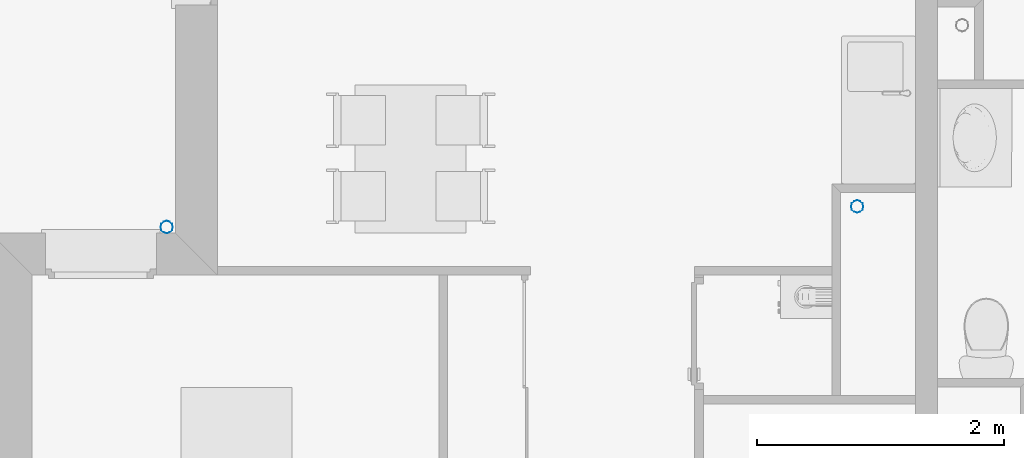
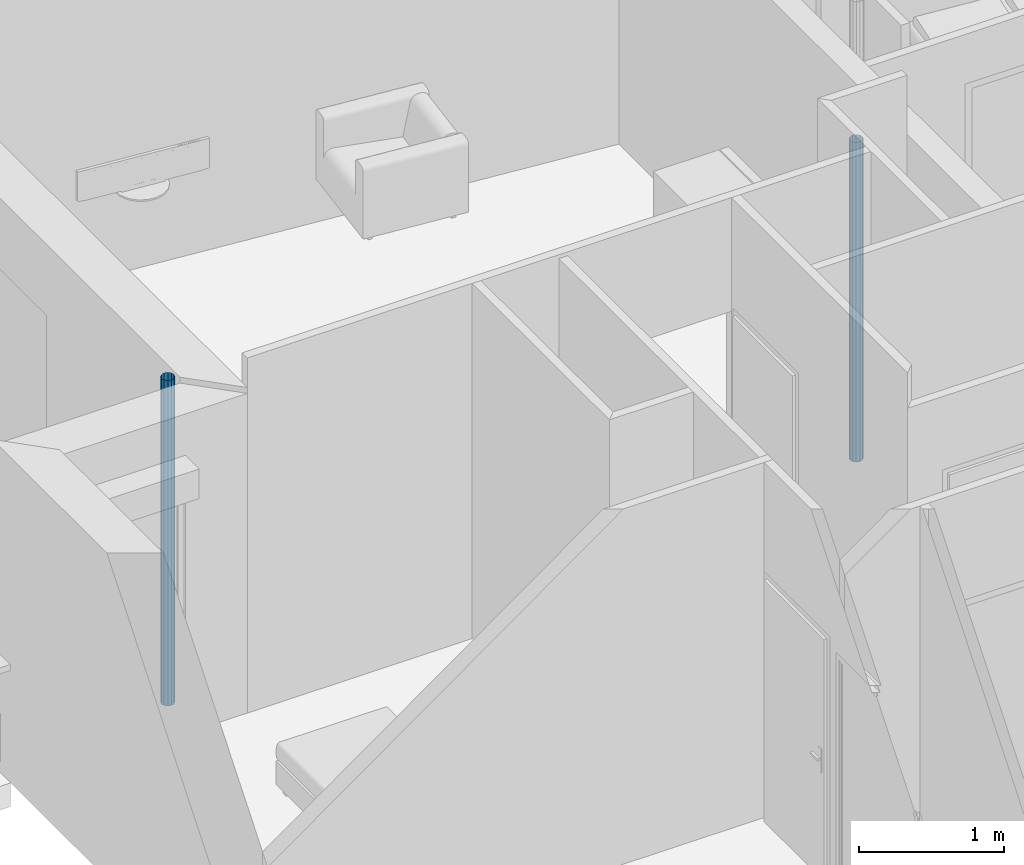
# One storey, part 79 of 164: 2 discrete accessories.
"""IFC2X3 building model written with IfcOpenShell, lengths in millimetres."""

import ifcopenshell
import ifcopenshell.guid

model = None  # the IFC model being written
_history = None  # IfcOwnerHistory: only IFC2X3 demands one
_inside = {}  # id of a spatial element -> (the spatial element, [elements in it])
_under = {}  # id of a project, library or spatial element -> (it, [spatial elements below it])
_declared = {}  # id of a project -> (the project, [libraries it declares])
_typed = {}  # id of a type object -> (the type object, [elements of that type])
_made_of = {}  # id of a material, layer set ... -> (it, [elements and type objects made of it])


def new_model(schema):
    """Start an empty IFC model of exactly this schema.

    Asked for "IFC4X3", IfcOpenShell would pick the latest addendum, in which some entities
    have other attributes; the version numbers below select the first issue.
    IFC2X3 requires an IfcOwnerHistory on every rooted entity: one is made here for all.
    """
    global model, _history
    if schema == "IFC4X3":
        model = ifcopenshell.file(schema_version=(4, 3, 0, 0))
    else:
        model = ifcopenshell.file(schema=schema)
    _inside.clear()
    _under.clear()
    _declared.clear()
    _typed.clear()
    _made_of.clear()
    _history = None
    if model.schema == "IFC2X3":
        org = make("IfcOrganization", Name="unknown")
        user = make(
            "IfcPersonAndOrganization",
            ThePerson=make("IfcPerson", FamilyName="unknown"),
            TheOrganization=org,
        )
        app = make(
            "IfcApplication",
            ApplicationDeveloper=org,
            Version="unknown",
            ApplicationFullName="unknown",
            ApplicationIdentifier="unknown",
        )
        _history = make(
            "IfcOwnerHistory",
            OwningUser=user,
            OwningApplication=app,
            ChangeAction="ADDED",
            CreationDate=0,
        )
    return model


def make(cls, **values):
    """One entity of the class cls with the attributes given. An attribute that is None is left unset."""
    return model.create_entity(
        cls, **{name: value for name, value in values.items() if value is not None}
    )


def entity(cls, *values):
    """Any entity or typed value of the class cls, its attributes in the order of the schema. None: left unset."""
    e = model.create_entity(cls)
    for i, value in enumerate(values):
        if value is not None:
            e[i] = value
    return e


def rooted(cls, **values):
    """An entity with a GlobalId (a new one), such as an element, a storey or a relation."""
    return make(cls, GlobalId=ifcopenshell.guid.new(), OwnerHistory=_history, **values)


def si_unit(unit_type, name, prefix=None):
    """IfcSIUnit, for example si_unit("LENGTHUNIT", "METRE", prefix="MILLI")."""
    return make("IfcSIUnit", UnitType=unit_type, Prefix=prefix, Name=name)


def converted_unit(unit_type, name, factor, base, dimensions=None, offset=None):
    """IfcConversionBasedUnit, such as the inch: factor (a typed value) times the base unit."""
    return make(
        "IfcConversionBasedUnit"
        if offset is None
        else "IfcConversionBasedUnitWithOffset",
        ConversionOffset=offset,
        Dimensions=None
        if dimensions is None
        else entity("IfcDimensionalExponents", *dimensions),
        UnitType=unit_type,
        Name=name,
        ConversionFactor=make(
            "IfcMeasureWithUnit", ValueComponent=factor, UnitComponent=base
        ),
    )


def derived_unit(unit_type, elements):
    """IfcDerivedUnit: a product of units, each with its exponent."""
    return make(
        "IfcDerivedUnit",
        Elements=[
            make("IfcDerivedUnitElement", Unit=unit, Exponent=power)
            for unit, power in elements
        ],
        UnitType=unit_type,
    )


def money_unit(currency):
    """IfcMonetaryUnit."""
    return make("IfcMonetaryUnit", Currency=currency)


def assignment(units):
    """IfcUnitAssignment: the units of a project."""
    return None if units is None else make("IfcUnitAssignment", Units=units)


def point(xyz):
    """IfcCartesianPoint."""
    return None if xyz is None else make("IfcCartesianPoint", Coordinates=xyz)


def direction(xyz):
    """IfcDirection."""
    return None if xyz is None else make("IfcDirection", DirectionRatios=xyz)


def frame(location, z_axis=None, x_axis=None):
    """IfcAxis2Placement3D, a coordinate frame: its origin and axes. An axis left out is left unset."""
    return make(
        "IfcAxis2Placement3D",
        Location=point(location),
        Axis=direction(z_axis),
        RefDirection=direction(x_axis),
    )


def origin_with_axes():
    """The frame at (0, 0, 0) with the z axis (0, 0, 1) and the x axis (1, 0, 0) written out."""
    return frame((0.0, 0.0, 0.0), z_axis=(0.0, 0.0, 1.0), x_axis=(1.0, 0.0, 0.0))


def place(relative_to, where):
    """IfcLocalPlacement: puts the frame where relative to a parent placement (None: the world)."""
    return make(
        "IfcLocalPlacement", PlacementRelTo=relative_to, RelativePlacement=where
    )


def context(
    kind, dimensions, precision=None, world=None, true_north=None, identifier=None
):
    """IfcGeometricRepresentationContext, for example the 3D "Model" context."""
    return make(
        "IfcGeometricRepresentationContext",
        ContextIdentifier=identifier,
        ContextType=kind,
        CoordinateSpaceDimension=dimensions,
        Precision=precision,
        WorldCoordinateSystem=world,
        TrueNorth=true_north,
    )


def subcontext(parent, identifier, kind, view, scale=None):
    """IfcGeometricRepresentationSubContext, for example "Body" below "Model"."""
    return make(
        "IfcGeometricRepresentationSubContext",
        ContextIdentifier=identifier,
        ContextType=kind,
        ParentContext=parent,
        TargetScale=scale,
        TargetView=view,
    )


def project(units=None, contexts=None):
    """IfcProject with its units and contexts."""
    return rooted(
        "IfcProject",
        Name="project",
        RepresentationContexts=contexts,
        UnitsInContext=assignment(units),
    )


def spatial(cls, under=None, at=None, **own):
    """A site, building, storey or space (cls), placed at a placement, below another one or the project."""
    s = rooted(cls, ObjectPlacement=at, **own)
    if under is not None:
        _under.setdefault(under.id(), (under, []))[1].append(s)
    return s


def faces_of(points, faces, orient=None, outer=None):
    """IfcFace entities. A face is a list of loops; a loop is a list of indices into points, from 0.

    orient and outer hold one flag for each loop. By default every Orientation is true, the
    first loop of a face is its IfcFaceOuterBound and the others are IfcFaceBound.
    """
    made = []
    for i, loops in enumerate(faces):
        bounds = []
        for j, loop in enumerate(loops):
            is_outer = j == 0 if outer is None else outer[i][j]
            bounds.append(
                make(
                    "IfcFaceOuterBound" if is_outer else "IfcFaceBound",
                    Bound=make("IfcPolyLoop", Polygon=[points[k] for k in loop]),
                    Orientation=True if orient is None else orient[i][j],
                )
            )
        made.append(make("IfcFace", Bounds=bounds))
    return made


def open_shell(faces, orient=None, outer=None):
    """The faces of one IfcOpenShell. surface_model builds it on its shared points."""
    return ("IfcOpenShell", faces, orient, outer)


def surface_model(cls, points, shells):
    """IfcFaceBasedSurfaceModel or IfcShellBasedSurfaceModel (cls): surfaces that need not close."""
    shared = [point(p) for p in points]
    made = [make(c, CfsFaces=faces_of(shared, fs, o, b)) for c, fs, o, b in shells]
    if cls == "IfcFaceBasedSurfaceModel":
        return make(cls, FbsmFaces=made)
    return make(cls, SbsmBoundary=made)


def shape(context_of_items, identifier, shape_type, items):
    """IfcShapeRepresentation: the items that make up one representation, for example the "Body"."""
    return make(
        "IfcShapeRepresentation",
        ContextOfItems=context_of_items,
        RepresentationIdentifier=identifier,
        RepresentationType=shape_type,
        Items=items,
    )


def source(mapping_origin, context_of_items, identifier, shape_type, items):
    """IfcRepresentationMap: a shape defined once, which mapped items show again and again."""
    return make(
        "IfcRepresentationMap",
        MappingOrigin=mapping_origin,
        MappedRepresentation=shape(context_of_items, identifier, shape_type, items),
    )


def transform(
    local_origin,
    x_axis=None,
    y_axis=None,
    z_axis=None,
    scale=None,
    scale2=None,
    scale3=None,
    uniform=True,
):
    """IfcCartesianTransformationOperator3D, or its non-uniform kind. x_axis, y_axis, z_axis: its Axis1, 2, 3."""
    if uniform:
        return make(
            "IfcCartesianTransformationOperator3D",
            Axis1=direction(x_axis),
            Axis2=direction(y_axis),
            LocalOrigin=point(local_origin),
            Scale=scale,
            Axis3=direction(z_axis),
        )
    return make(
        "IfcCartesianTransformationOperator3DnonUniform",
        Axis1=direction(x_axis),
        Axis2=direction(y_axis),
        LocalOrigin=point(local_origin),
        Scale=scale,
        Axis3=direction(z_axis),
        Scale2=scale2,
        Scale3=scale3,
    )


def mapped(mapping_source, mapping_target):
    """IfcMappedItem: shows the shape of a source again, moved by a transform."""
    return make(
        "IfcMappedItem", MappingSource=mapping_source, MappingTarget=mapping_target
    )


def made_of(thing, what):
    """Note that an element or type object is made of a material, layer set ...; save() writes the relation."""
    if what is not None:
        _made_of.setdefault(what.id(), (what, []))[1].append(thing)
    return thing


def type_object(cls, material=None, **own):
    """A type object (cls), such as IfcWallType, which elements share."""
    return made_of(rooted(cls, **own), material)


def element(
    cls,
    number,
    at=None,
    inside=None,
    cuts=None,
    type_object=None,
    material=None,
    context=None,
    identifier="Body",
    shape_type=None,
    held_by="IfcProductDefinitionShape",
    body=None,
    shapes=None,
    **own,
):
    """One element of the class cls, such as IfcWall. Its Tag is "e" and its number.

    at: its placement. inside: the storey or other place that contains it. cuts: it is an
    opening in that element (IfcRelVoidsElement). A single representation is given by context,
    identifier, shape_type and body (its items); several are given by shapes. held_by: the class
    of the entity that holds the representations. save() writes the other relations.
    """
    e = rooted(cls, Tag="e%d" % number, ObjectPlacement=at, **own)
    if body is not None:
        shapes = [shape(context, identifier, shape_type, body)]
    if shapes is not None:
        e.Representation = make(held_by, Representations=shapes)
    if inside is not None:
        _inside.setdefault(inside.id(), (inside, []))[1].append(e)
    if cuts is not None:
        rooted(
            "IfcRelVoidsElement", RelatingBuildingElement=cuts, RelatedOpeningElement=e
        )
    if type_object is not None:
        _typed.setdefault(type_object.id(), (type_object, []))[1].append(e)
    return made_of(e, material)


def aggregate(whole, parts):
    """IfcRelAggregates: a whole, such as a stair, and the parts it consists of."""
    return rooted("IfcRelAggregates", RelatingObject=whole, RelatedObjects=parts)


def save(model, path):
    """Write the relations noted so far, then the file.

    IfcRelAggregates (storeys below a building ...), IfcRelContainedInSpatialStructure (elements
    in a storey), IfcRelDefinesByType, IfcRelAssociatesMaterial and IfcRelDeclares: one each for
    every whole, place, type object, material and project.
    """
    for whole, parts in _under.values():
        aggregate(whole, parts)
    for where, things in _inside.values():
        rooted(
            "IfcRelContainedInSpatialStructure",
            RelatedElements=things,
            RelatingStructure=where,
        )
    for kind, things in _typed.values():
        rooted("IfcRelDefinesByType", RelatedObjects=things, RelatingType=kind)
    for what, things in _made_of.values():
        rooted("IfcRelAssociatesMaterial", RelatedObjects=things, RelatingMaterial=what)
    for by, libraries in _declared.values():
        rooted("IfcRelDeclares", RelatingContext=by, RelatedDefinitions=libraries)
    model.write(path)


model = new_model("IFC2X3")

# Units and contexts
model_context = context("Model", 3, precision=0.01, world=origin_with_axes(), true_north=direction((0.0, 1.0)))
body_context = subcontext(model_context, "Body", "Model", "MODEL_VIEW")
ifc_project = project(units=[si_unit("LENGTHUNIT", "METRE", prefix="MILLI"), si_unit("AREAUNIT", "SQUARE_METRE"), si_unit("VOLUMEUNIT", "CUBIC_METRE"), converted_unit("PLANEANGLEUNIT", "DEGREE", entity("IfcPlaneAngleMeasure", 0.0174532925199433), si_unit("PLANEANGLEUNIT", "RADIAN"), dimensions=[0, 0, 0, 0, 0, 0, 0]), money_unit("USD"), converted_unit("TIMEUNIT", "Year", entity("IfcTimeMeasure", 31557600.0), si_unit("TIMEUNIT", "SECOND"), dimensions=[0, 0, 1, 0, 0, 0, 0]), si_unit("MASSUNIT", "GRAM", prefix="KILO"), si_unit("THERMODYNAMICTEMPERATUREUNIT", "DEGREE_CELSIUS"), si_unit("LUMINOUSINTENSITYUNIT", "LUMEN"), si_unit("ENERGYUNIT", "JOULE", prefix="MEGA"), derived_unit("THERMALCONDUCTANCEUNIT", [(si_unit("POWERUNIT", "WATT"), 1), (si_unit("LENGTHUNIT", "METRE"), -1), (si_unit("THERMODYNAMICTEMPERATUREUNIT", "KELVIN"), -1)]), derived_unit("SPECIFICHEATCAPACITYUNIT", [(si_unit("ENERGYUNIT", "JOULE"), 1), (si_unit("MASSUNIT", "GRAM", prefix="KILO"), -1), (si_unit("THERMODYNAMICTEMPERATUREUNIT", "KELVIN"), -1)]), derived_unit("MASSDENSITYUNIT", [(si_unit("MASSUNIT", "GRAM", prefix="KILO"), 1), (si_unit("VOLUMEUNIT", "CUBIC_METRE"), -1)])], contexts=[model_context])

# Site, building, storey
site_placement = place(None, origin_with_axes())
site = spatial("IfcSite", under=ifc_project, at=site_placement, Name="Site", CompositionType="ELEMENT")
building_placement = place(site_placement, origin_with_axes())
building = spatial("IfcBuilding", under=site, at=building_placement, Name="Bâtiment", CompositionType="ELEMENT")
storey_placement = place(building_placement, frame((0.0, 0.0, 5750.0), z_axis=(0.0, 0.0, 1.0), x_axis=(1.0, 0.0, 0.0)))
storey = spatial("IfcBuildingStorey", under=building, at=storey_placement, Name="Etage1", CompositionType="ELEMENT", Elevation=5750.0)

# Discrete accessories
discrete_accessory_type = type_object("IfcDiscreteAccessoryType", Name="Tuyau descente 27")
shared_shape_1 = source(origin_with_axes(), body_context, "Body", "SurfaceModel", [
    surface_model("IfcShellBasedSurfaceModel", [(50.0, 0.0, 2700.0), (43.30127018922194, -25.0, 2700.0), (43.30127018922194, -25.0, 0.0), (50.0, 0.0, 0.0), (25.00000000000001, -43.30127018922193, 2700.0), (25.00000000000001, -43.30127018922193, 0.0), (43.30127018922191, 25.00000000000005, 2700.0), (43.30127018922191, 25.00000000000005, 0.0), (0.0, -50.0, 2700.0), (0.0, -50.0, 0.0), (24.99999999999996, 43.30127018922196, 2700.0), (24.99999999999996, 43.30127018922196, 0.0), (-24.99999999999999, -43.30127018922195, 2700.0), (-24.99999999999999, -43.30127018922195, 0.0), (0.0, 50.0, 2700.0), (0.0, 50.0, 0.0), (-43.30127018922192, -25.00000000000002, 2700.0), (-43.30127018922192, -25.00000000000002, 0.0), (-25.00000000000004, 43.30127018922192, 2700.0), (-25.00000000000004, 43.30127018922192, 0.0), (-50.0, 0.0, 2700.0), (-50.0, 0.0, 0.0), (-43.30127018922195, 24.99999999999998, 2700.0), (-43.30127018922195, 24.99999999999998, 0.0)], [open_shell([[[0, 1, 2, 3]], [[1, 4, 5, 2]], [[6, 0, 3, 7]], [[4, 8, 9, 5]], [[10, 6, 7, 11]], [[8, 12, 13, 9]], [[14, 10, 11, 15]], [[12, 16, 17, 13]], [[18, 14, 15, 19]], [[16, 20, 21, 17]], [[22, 18, 19, 23]], [[20, 22, 23, 21]]])]),
])
discrete_accessory_1_placement = place(storey_placement, frame((2223660.409835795, -625854.7847658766, 0.0), z_axis=(0.0, 0.0, 1.0), x_axis=(1.0, 0.0, 0.0)))
element("IfcDiscreteAccessory", 1, at=discrete_accessory_1_placement, inside=storey, type_object=discrete_accessory_type, Name="Obj.-318", context=body_context, shape_type="MappedRepresentation", body=[
    mapped(shared_shape_1, transform((0.0, 0.0, 0.0))),
])
shared_shape_2 = source(origin_with_axes(), body_context, "Body", "SurfaceModel", [
    surface_model("IfcShellBasedSurfaceModel", [(50.0, 0.0, 2750.0), (43.30127018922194, -25.0, 2750.0), (43.30127018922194, -25.0, 0.0), (50.0, 0.0, 0.0), (25.00000000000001, -43.30127018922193, 2750.0), (25.00000000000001, -43.30127018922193, 0.0), (43.30127018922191, 25.00000000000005, 2750.0), (43.30127018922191, 25.00000000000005, 0.0), (0.0, -50.0, 2750.0), (0.0, -50.0, 0.0), (24.99999999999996, 43.30127018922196, 2750.0), (24.99999999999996, 43.30127018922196, 0.0), (-24.99999999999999, -43.30127018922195, 2750.0), (-24.99999999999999, -43.30127018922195, 0.0), (0.0, 50.0, 2750.0), (0.0, 50.0, 0.0), (-43.30127018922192, -25.00000000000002, 2750.0), (-43.30127018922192, -25.00000000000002, 0.0), (-25.00000000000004, 43.30127018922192, 2750.0), (-25.00000000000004, 43.30127018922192, 0.0), (-50.0, 0.0, 2750.0), (-50.0, 0.0, 0.0), (-43.30127018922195, 24.99999999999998, 2750.0), (-43.30127018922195, 24.99999999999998, 0.0)], [open_shell([[[0, 1, 2, 3]], [[1, 4, 5, 2]], [[6, 0, 3, 7]], [[4, 8, 9, 5]], [[10, 6, 7, 11]], [[8, 12, 13, 9]], [[14, 10, 11, 15]], [[12, 16, 17, 13]], [[18, 14, 15, 19]], [[16, 20, 21, 17]], [[22, 18, 19, 23]], [[20, 22, 23, 21]]])]),
])
discrete_accessory_2_placement = place(storey_placement, frame((2218064.406529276, -626021.2141322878, 0.0), z_axis=(0.0, 0.0, 1.0), x_axis=(1.0, 0.0, 0.0)))
element("IfcDiscreteAccessory", 2, at=discrete_accessory_2_placement, inside=storey, type_object=discrete_accessory_type, Name="Obj.-318", context=body_context, shape_type="MappedRepresentation", body=[
    mapped(shared_shape_2, transform((0.0, 0.0, 0.0))),
])

save(model, "model.ifc")
